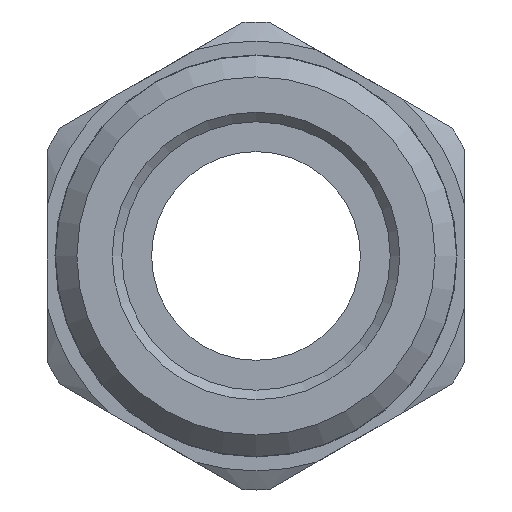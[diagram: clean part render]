
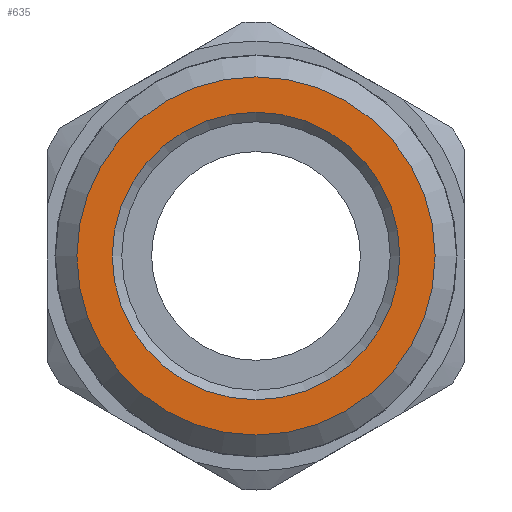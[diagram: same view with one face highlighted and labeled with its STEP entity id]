
A CAD part, front view. The second image highlights one B-rep face of the part: STEP entity #635.
In plain terms, the highlighted planar face has unit normal (0, -1, 0).
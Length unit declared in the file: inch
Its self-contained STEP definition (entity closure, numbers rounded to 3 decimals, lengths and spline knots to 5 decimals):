
#28=FACE_BOUND('',#155,.T.);
#62=CIRCLE('',#714,0.301);
#63=CIRCLE('',#716,0.375);
#116=FACE_OUTER_BOUND('',#154,.T.);
#154=EDGE_LOOP('',(#526));
#155=EDGE_LOOP('',(#527));
#295=VERTEX_POINT('',#1119);
#296=VERTEX_POINT('',#1123);
#382=EDGE_CURVE('',#295,#295,#62,.T.);
#383=EDGE_CURVE('',#296,#296,#63,.T.);
#526=ORIENTED_EDGE('',*,*,#383,.F.);
#527=ORIENTED_EDGE('',*,*,#382,.F.);
#607=PLANE('',#715);
#635=ADVANCED_FACE('',(#116,#28),#607,.T.);
#714=AXIS2_PLACEMENT_3D('',#1121,#873,#874);
#715=AXIS2_PLACEMENT_3D('',#1122,#875,#876);
#716=AXIS2_PLACEMENT_3D('',#1124,#877,#878);
#873=DIRECTION('center_axis',(0.,-1.,0.));
#874=DIRECTION('ref_axis',(0.,0.,1.));
#875=DIRECTION('center_axis',(0.,-1.,0.));
#876=DIRECTION('ref_axis',(0.,0.,-1.));
#877=DIRECTION('center_axis',(0.,1.,0.));
#878=DIRECTION('ref_axis',(0.,0.,1.));
#1119=CARTESIAN_POINT('',(0.,0.,-0.301));
#1121=CARTESIAN_POINT('Origin',(0.,0.,0.));
#1122=CARTESIAN_POINT('Origin',(0.,0.,-0.281));
#1123=CARTESIAN_POINT('',(0.,0.,-0.375));
#1124=CARTESIAN_POINT('Origin',(0.,0.,0.));
